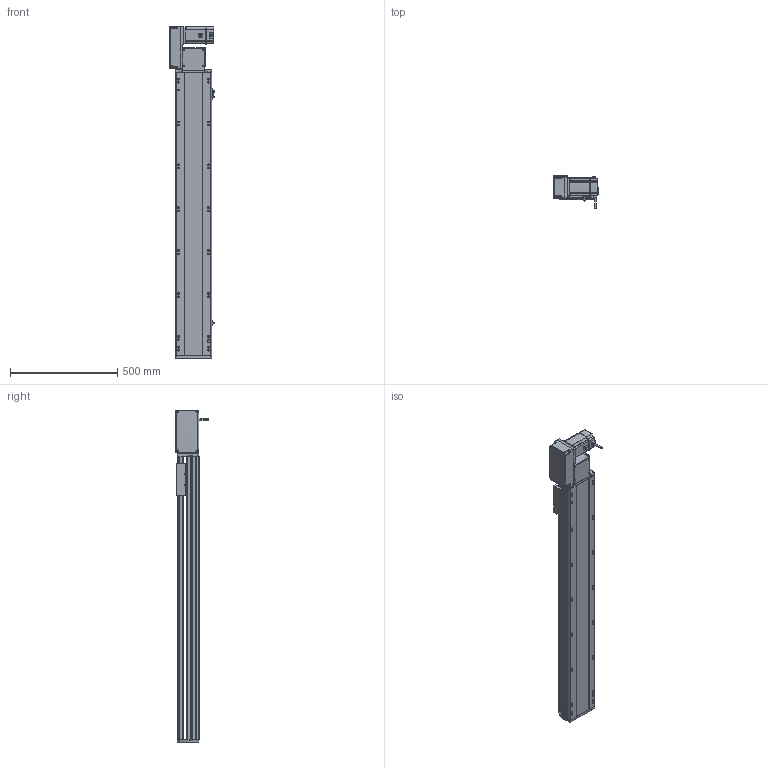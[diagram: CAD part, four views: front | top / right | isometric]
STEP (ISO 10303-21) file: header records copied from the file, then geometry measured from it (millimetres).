
FILE_DESCRIPTION (( 'STEP AP214' ), '1' );
FILE_NAME ('RTB17S-XX-1050-L-M75-C4.STEP', '2025-12-12T00:13:29', ( '' ), ( '' ), 'SwSTEP 2.0', 'SolidWorks 2018', '' );
FILE_SCHEMA (( 'AUTOMOTIVE_DESIGN' ));
Length unit declared in the file: millimetre
Products named in the file (15): EE672^RTB17S-XX-XX-L-M75-C4; RTB22S-GY-018P^RTB17S-L-々湍釱蚾饜-750W_RTB17S-XX-XX-L-M75-C4; RTB17S-L-001-耜醱啣^RTB17S-XX-XX-L-M75-C4; RTB17S-L-004-賑釱^RTB17S-賑釱_RTB17S-XX-XX-L-M75-C4; RTB17S-L-々湍釱蚾饜-750W^RTB17S-XX-XX-L-M75-C4; RTB22S-GY-017P^RTB17S-L-々湍釱蚾饜-750W_RTB17S-XX-XX-L-M75-C4; RTB22S-GY-005P^RTB17S-L-々湍釱蚾饜-750W_RTB17S-XX-XX-L-M75-C4; RTB17S-XX-1050-L-M75-C4; RMP17S-L-014-T20-P75--々湍釱^RTB17S-L-々湍釱蚾饜-750W_RTB17S-XX-XX-L-M75-C4; 750W萇儂^RTB17S-XX-XX-L-M75-C4; RTH13-BL-012覜茼え俋离^RTB17S-賑釱_RTB17S-XX-XX-L-M75-C4; RTB17-R-011菁釱^RTB17S-XX-XX-L-M75-C4; RTB17S-L-007奻裔^RTB17S-XX-XX-L-M75-C4; RTB22S-GY-008-M75--萇儂啣^RTB17S-L-々湍釱蚾饜-750W_RTB17S-XX-XX-L-M75-C4; RTB17S-賑釱^RTB17S-XX-XX-L-M75-C4
Assembly tree (17 placements, depth 3):
  RTB17S-XX-1050-L-M75-C4
    RTB17-R-011菁釱^RTB17S-XX-XX-L-M75-C4
    EE672^RTB17S-XX-XX-L-M75-C4  x3
    RTB17S-L-001-耜醱啣^RTB17S-XX-XX-L-M75-C4
    RTB17S-賑釱^RTB17S-XX-XX-L-M75-C4
      RTB17S-L-004-賑釱^RTB17S-賑釱_RTB17S-XX-XX-L-M75-C4
      RTH13-BL-012覜茼え俋离^RTB17S-賑釱_RTB17S-XX-XX-L-M75-C4
    RTB17S-L-007奻裔^RTB17S-XX-XX-L-M75-C4
    750W萇儂^RTB17S-XX-XX-L-M75-C4
    RTB17S-L-々湍釱蚾饜-750W^RTB17S-XX-XX-L-M75-C4
      RMP17S-L-014-T20-P75--々湍釱^RTB17S-L-々湍釱蚾饜-750W_RTB17S-XX-XX-L-M75-C4
      RTB22S-GY-005P^RTB17S-L-々湍釱蚾饜-750W_RTB17S-XX-XX-L-M75-C4
      RTB22S-GY-017P^RTB17S-L-々湍釱蚾饜-750W_RTB17S-XX-XX-L-M75-C4  x2
      RTB22S-GY-008-M75--萇儂啣^RTB17S-L-々湍釱蚾饜-750W_RTB17S-XX-XX-L-M75-C4
      RTB22S-GY-018P^RTB17S-L-々湍釱蚾饜-750W_RTB17S-XX-XX-L-M75-C4
Bounding box: 210.4 x 152.7 x 1549 mm (x, y, z)
Volume: 12508454.8 mm3; surface area: 2134134.2 mm2
Topology: 17 solids, 17 shells, 2105 faces, 5836 edges, 3770 vertices
Faces by surface type: plane 972, cylinder 717, bspline 294, cone 110, sphere 8, torus 4
Entity records: 58870 total; most frequent: CARTESIAN_POINT 17300, ORIENTED_EDGE 8516, DIRECTION 7952, EDGE_CURVE 4258, AXIS2_PLACEMENT_3D 2790, VERTEX_POINT 2774, LINE 2372, VECTOR 2372
